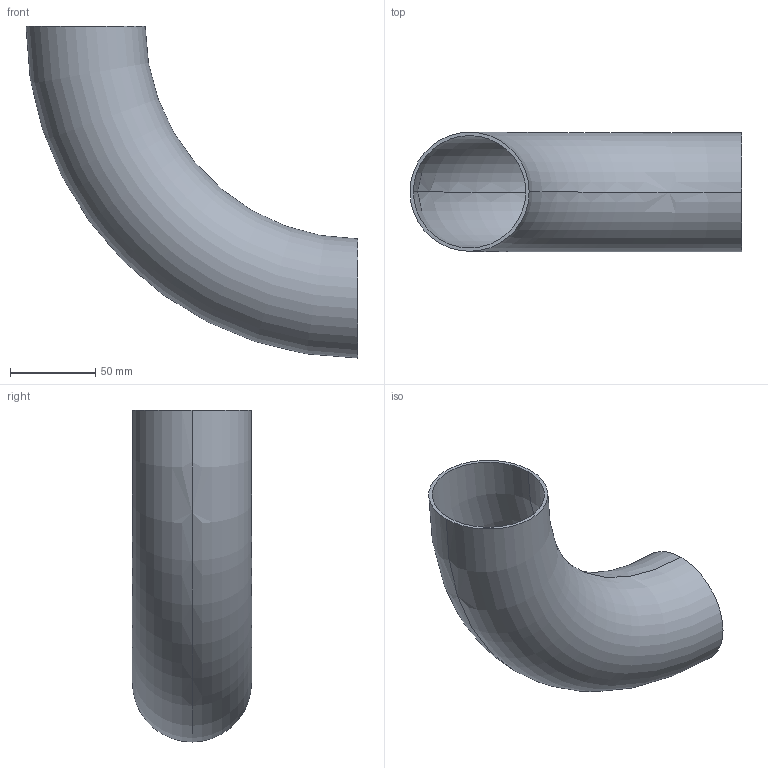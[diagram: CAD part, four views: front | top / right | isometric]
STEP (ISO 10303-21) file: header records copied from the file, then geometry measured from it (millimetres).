
FILE_DESCRIPTION (( 'STEP AP203' ), '1' );
FILE_NAME ('3D_R1655_70x2_17362240.STEP', '2024-08-05T08:56:49', ( '' ), ( '' ), 'SwSTEP 2.0', 'SolidWorks 2024', '' );
FILE_SCHEMA (( 'CONFIG_CONTROL_DESIGN' ));
Length unit declared in the file: millimetre
Products named in the file (1): 3D_R1655_70x2_17362240
Bounding box: 195 x 70 x 195 mm (x, y, z)
Volume: 107381.3 mm3; surface area: 108235.8 mm2
Topology: 1 solids, 1 shells, 6 faces, 12 edges, 8 vertices
Faces by surface type: torus 4, plane 2
Entity records: 249 total; most frequent: DIRECTION 38, CARTESIAN_POINT 27, ORIENTED_EDGE 24, AXIS2_PLACEMENT_3D 19, CIRCLE 12, EDGE_CURVE 12, EDGE_LOOP 8, VERTEX_POINT 8
